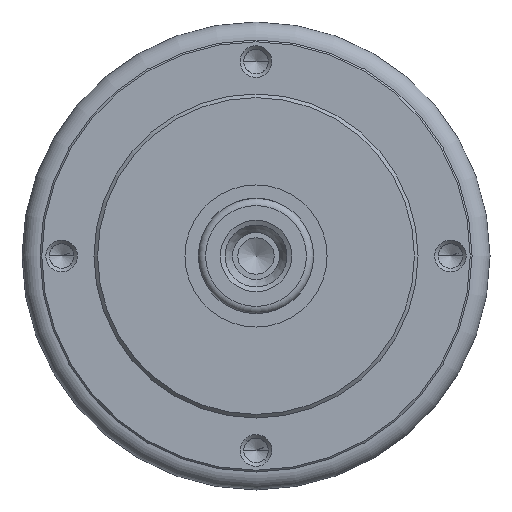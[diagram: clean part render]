
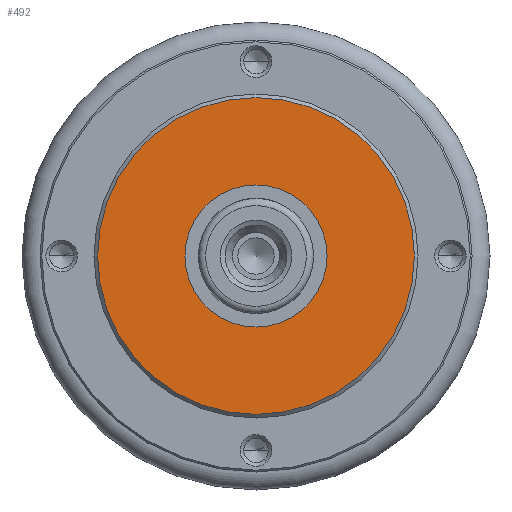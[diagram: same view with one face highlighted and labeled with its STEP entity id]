
A CAD part, left-side view. The second image highlights one B-rep face of the part: STEP entity #492.
In plain terms, the highlighted planar face has unit normal (-1, 0, 0).
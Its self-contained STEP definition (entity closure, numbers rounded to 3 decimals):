
#212=PLANE('',#2928);
#307=FACE_BOUND('',#858,.T.);
#308=FACE_BOUND('',#859,.T.);
#492=ADVANCED_FACE('',(#307,#308),#212,.T.);
#858=EDGE_LOOP('',(#1474));
#859=EDGE_LOOP('',(#1475,#1476));
#1474=ORIENTED_EDGE('',*,*,#2385,.T.);
#1475=ORIENTED_EDGE('',*,*,#2409,.T.);
#1476=ORIENTED_EDGE('',*,*,#2415,.T.);
#2110=VERTEX_POINT('',#4587);
#2127=VERTEX_POINT('',#4698);
#2128=VERTEX_POINT('',#4700);
#2385=EDGE_CURVE('',#2110,#2110,#2713,.T.);
#2409=EDGE_CURVE('',#2128,#2127,#2722,.T.);
#2415=EDGE_CURVE('',#2127,#2128,#2724,.T.);
#2713=CIRCLE('',#2903,44.);
#2722=CIRCLE('',#2923,19.738);
#2724=CIRCLE('',#2927,19.738);
#2903=AXIS2_PLACEMENT_3D('',#4586,#3297,#3298);
#2923=AXIS2_PLACEMENT_3D('',#4699,#3348,#3349);
#2927=AXIS2_PLACEMENT_3D('',#4720,#3359,#3360);
#2928=AXIS2_PLACEMENT_3D('',#4721,#3361,#3362);
#3297=DIRECTION('',(-1.,0.,0.));
#3298=DIRECTION('',(0.,0.,1.));
#3348=DIRECTION('',(1.,0.,0.));
#3349=DIRECTION('',(0.,0.,1.));
#3359=DIRECTION('',(1.,0.,0.));
#3360=DIRECTION('',(0.,0.,1.));
#3361=DIRECTION('',(-1.,0.,0.));
#3362=DIRECTION('',(0.,0.,-1.));
#4586=CARTESIAN_POINT('',(53.004,0.,0.));
#4587=CARTESIAN_POINT('',(53.004,0.,44.));
#4698=CARTESIAN_POINT('',(53.004,0.,19.738));
#4699=CARTESIAN_POINT('',(53.004,0.,0.));
#4700=CARTESIAN_POINT('',(53.004,0.,-19.738));
#4720=CARTESIAN_POINT('',(53.004,0.,0.));
#4721=CARTESIAN_POINT('',(53.004,0.,0.));
